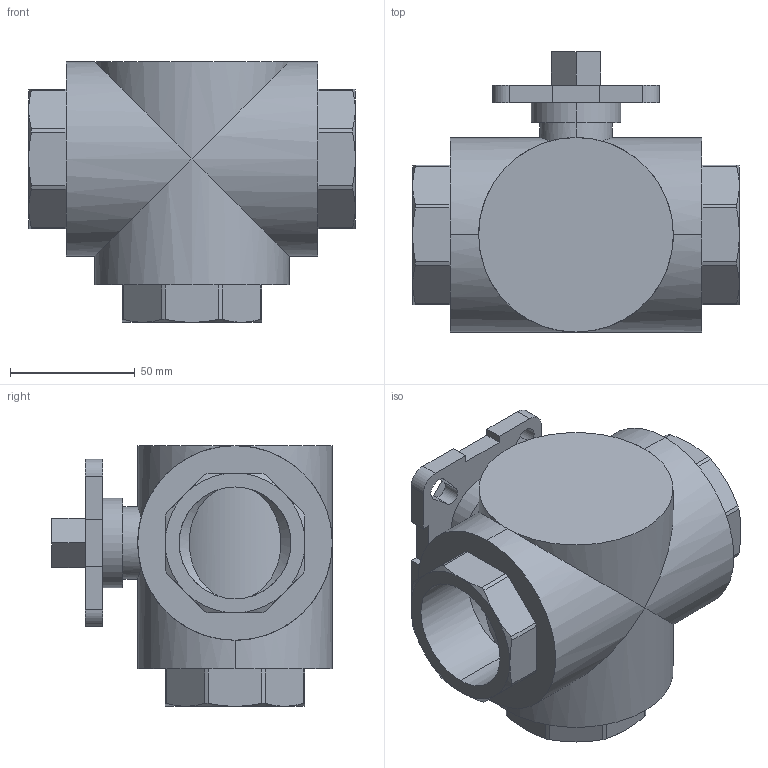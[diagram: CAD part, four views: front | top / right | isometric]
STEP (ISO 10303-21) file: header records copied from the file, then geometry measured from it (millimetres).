
FILE_DESCRIPTION (( 'STEP AP203' ), '1' );
FILE_NAME ('04.622I0400FVPB0.STEP', '2018-10-05T13:53:01', ( '' ), ( '' ), 'SwSTEP 2.0', 'SolidWorks 2014', '' );
FILE_SCHEMA (( 'CONFIG_CONTROL_DESIGN' ));
Length unit declared in the file: millimetre
Products named in the file (1): 04.622I0400FVPB0
Bounding box: 131 x 112.5 x 104.5 mm (x, y, z)
Volume: 619739.5 mm3; surface area: 72974.5 mm2
Topology: 1 solids, 1 shells, 159 faces, 411 edges, 263 vertices
Faces by surface type: plane 67, cylinder 62, cone 30
Entity records: 5498 total; most frequent: CARTESIAN_POINT 1576, ORIENTED_EDGE 822, DIRECTION 781, EDGE_CURVE 411, AXIS2_PLACEMENT_3D 290, VERTEX_POINT 263, VECTOR 201, LINE 201
